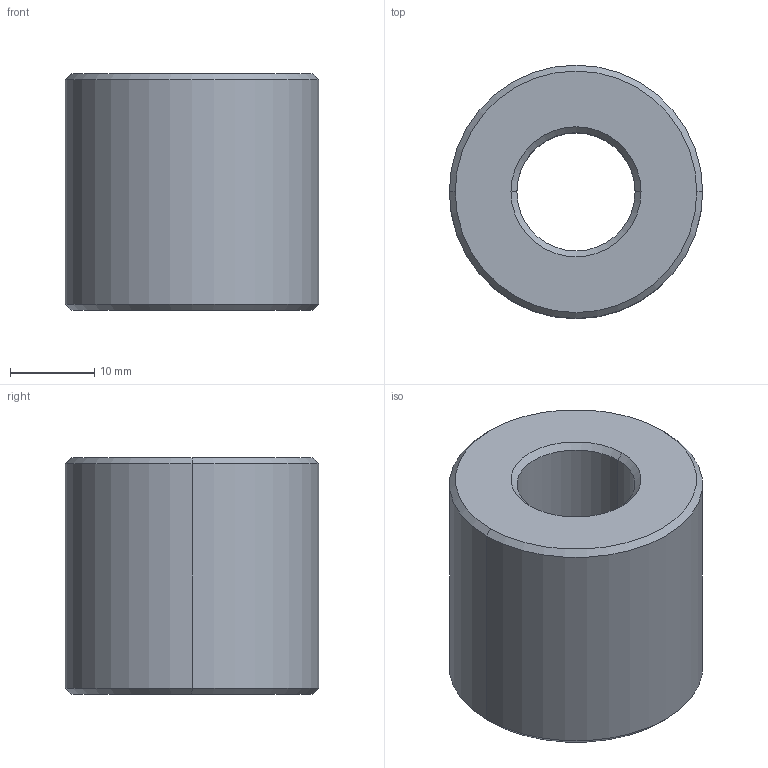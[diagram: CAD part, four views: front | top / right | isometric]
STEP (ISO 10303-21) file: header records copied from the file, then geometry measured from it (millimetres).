
FILE_DESCRIPTION (( 'STEP AP203' ), '1' );
FILE_NAME ('L1330.R14-03.step', '2024-10-24T09:25:37', ( '' ), ( '' ), 'SwSTEP 2.0', 'SolidWorks 2019', '' );
FILE_SCHEMA (( 'CONFIG_CONTROL_DESIGN' ));
Length unit declared in the file: millimetre
Products named in the file (1): L1330.R14-03
Bounding box: 30 x 30 x 28 mm (x, y, z)
Volume: 15414 mm3; surface area: 4862.9 mm2
Topology: 1 solids, 1 shells, 14 faces, 28 edges, 16 vertices
Faces by surface type: cone 8, cylinder 4, plane 2
Entity records: 445 total; most frequent: DIRECTION 74, CARTESIAN_POINT 59, ORIENTED_EDGE 56, AXIS2_PLACEMENT_3D 31, EDGE_CURVE 28, CIRCLE 16, VERTEX_POINT 16, EDGE_LOOP 16
